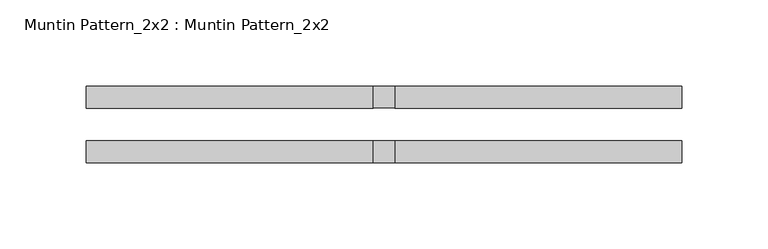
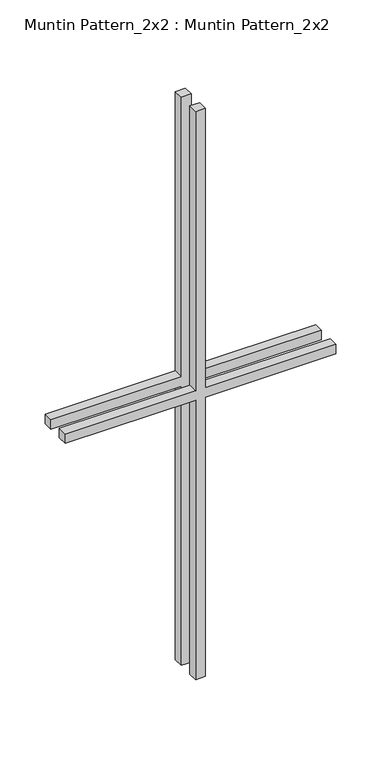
"""IFC4 building model written with IfcOpenShell, lengths in millimetres: proxy geometry, Muntin Pattern_2x2 : Muntin Pattern_2x2."""

from ifc_helpers import new_model, si_unit, frame, origin, place, context, project, spatial, polyline, outline, extrude, source, transform, mapped, element, save


def muntin_pattern_2x2_muntin_pattern_2x2_eeb7b067(model_context):
    return source(origin(), model_context, "Body", "SweptSolid", [
        extrude(outline(polyline([(390.525, -6.35), (390.525, -173.0375), (377.825, -173.0375), (377.825, -6.35), (0.0, -6.35), (0.0, 6.35), (377.825, 6.35), (377.825, 173.0375), (390.525, 173.0375), (390.525, 6.35), (768.35, 6.35), (768.35, -6.35), (390.525, -6.35)])), frame((0.0, 9.525, 0.0), z_axis=(0.0, 1.0, 0.0), x_axis=(0.0, 0.0, 1.0)), (0.0, 0.0, 1.0), 12.7),
        extrude(outline(polyline([(390.525, -6.35), (390.525, -173.0375), (377.825, -173.0375), (377.825, -6.35), (0.0, -6.35), (0.0, 6.35), (377.825, 6.35), (377.825, 173.0375), (390.525, 173.0375), (390.525, 6.35), (768.35, 6.35), (768.35, -6.35), (390.525, -6.35)])), frame((0.0, -22.225, 0.0), z_axis=(0.0, 1.0, 0.0), x_axis=(0.0, 0.0, 1.0)), (0.0, 0.0, 1.0), 12.7),
    ])


if __name__ == "__main__":
    model = new_model("IFC4")
    model_context = context("Model", 3, world=origin())
    ifc_project = project(units=[si_unit("LENGTHUNIT", "METRE", prefix="MILLI")], contexts=[model_context])
    site = spatial("IfcSite", under=ifc_project)
    building = spatial("IfcBuilding", under=site)
    placement = place(None, origin())
    muntin_pattern_2x2_muntin_pattern_2x2_shape = muntin_pattern_2x2_muntin_pattern_2x2_eeb7b067(model_context)
    element("IfcBuildingElementProxy", 1, Name="Muntin Pattern_2x2 : Muntin Pattern_2x2", ObjectType="Muntin Pattern_2x2 : Muntin Pattern_2x2", at=placement, inside=building, context=model_context, shape_type="MappedRepresentation", body=[
        mapped(muntin_pattern_2x2_muntin_pattern_2x2_shape, transform((0.0, 0.0, 0.0), x_axis=(1.0, 0.0, 0.0), y_axis=(0.0, 1.0, 0.0), z_axis=(0.0, 0.0, 1.0))),
    ])
    save(model, "model.ifc")
